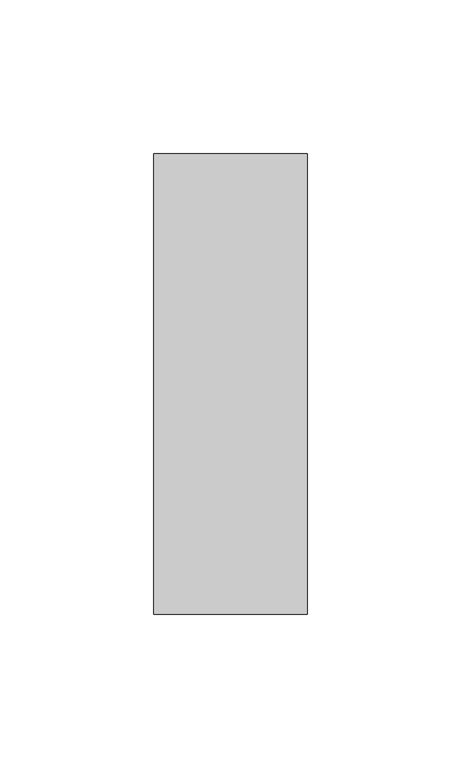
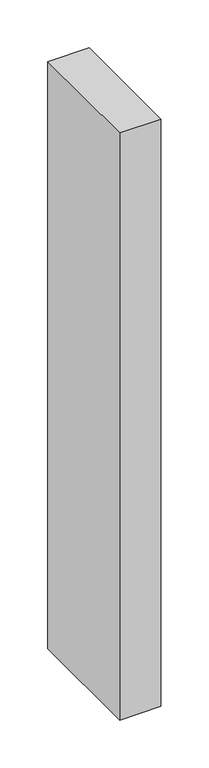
"""IFC4 building model written with IfcOpenShell, lengths in millimetres: member geometry, Прямоугольный импост : 50х150мм."""

import ifcopenshell
import ifcopenshell.guid

model = None  # the IFC model being written
_history = None  # IfcOwnerHistory: only IFC2X3 demands one
_inside = {}  # id of a spatial element -> (the spatial element, [elements in it])
_under = {}  # id of a project, library or spatial element -> (it, [spatial elements below it])
_declared = {}  # id of a project -> (the project, [libraries it declares])
_typed = {}  # id of a type object -> (the type object, [elements of that type])
_made_of = {}  # id of a material, layer set ... -> (it, [elements and type objects made of it])


def new_model(schema):
    """Start an empty IFC model of exactly this schema.

    Asked for "IFC4X3", IfcOpenShell would pick the latest addendum, in which some entities
    have other attributes; the version numbers below select the first issue.
    IFC2X3 requires an IfcOwnerHistory on every rooted entity: one is made here for all.
    """
    global model, _history
    if schema == "IFC4X3":
        model = ifcopenshell.file(schema_version=(4, 3, 0, 0))
    else:
        model = ifcopenshell.file(schema=schema)
    _inside.clear()
    _under.clear()
    _declared.clear()
    _typed.clear()
    _made_of.clear()
    _history = None
    if model.schema == "IFC2X3":
        org = make("IfcOrganization", Name="unknown")
        user = make(
            "IfcPersonAndOrganization",
            ThePerson=make("IfcPerson", FamilyName="unknown"),
            TheOrganization=org,
        )
        app = make(
            "IfcApplication",
            ApplicationDeveloper=org,
            Version="unknown",
            ApplicationFullName="unknown",
            ApplicationIdentifier="unknown",
        )
        _history = make(
            "IfcOwnerHistory",
            OwningUser=user,
            OwningApplication=app,
            ChangeAction="ADDED",
            CreationDate=0,
        )
    return model


def make(cls, **values):
    """One entity of the class cls with the attributes given. An attribute that is None is left unset."""
    return model.create_entity(
        cls, **{name: value for name, value in values.items() if value is not None}
    )


def rooted(cls, **values):
    """An entity with a GlobalId (a new one), such as an element, a storey or a relation."""
    return make(cls, GlobalId=ifcopenshell.guid.new(), OwnerHistory=_history, **values)


def si_unit(unit_type, name, prefix=None):
    """IfcSIUnit, for example si_unit("LENGTHUNIT", "METRE", prefix="MILLI")."""
    return make("IfcSIUnit", UnitType=unit_type, Prefix=prefix, Name=name)


def assignment(units):
    """IfcUnitAssignment: the units of a project."""
    return None if units is None else make("IfcUnitAssignment", Units=units)


def point(xyz):
    """IfcCartesianPoint."""
    return None if xyz is None else make("IfcCartesianPoint", Coordinates=xyz)


def direction(xyz):
    """IfcDirection."""
    return None if xyz is None else make("IfcDirection", DirectionRatios=xyz)


def frame(location, z_axis=None, x_axis=None):
    """IfcAxis2Placement3D, a coordinate frame: its origin and axes. An axis left out is left unset."""
    return make(
        "IfcAxis2Placement3D",
        Location=point(location),
        Axis=direction(z_axis),
        RefDirection=direction(x_axis),
    )


def origin():
    """The frame at (0, 0, 0) with its axes left unset."""
    return frame((0.0, 0.0, 0.0))


def place(relative_to, where):
    """IfcLocalPlacement: puts the frame where relative to a parent placement (None: the world)."""
    return make(
        "IfcLocalPlacement", PlacementRelTo=relative_to, RelativePlacement=where
    )


def context(
    kind, dimensions, precision=None, world=None, true_north=None, identifier=None
):
    """IfcGeometricRepresentationContext, for example the 3D "Model" context."""
    return make(
        "IfcGeometricRepresentationContext",
        ContextIdentifier=identifier,
        ContextType=kind,
        CoordinateSpaceDimension=dimensions,
        Precision=precision,
        WorldCoordinateSystem=world,
        TrueNorth=true_north,
    )


def project(units=None, contexts=None):
    """IfcProject with its units and contexts."""
    return rooted(
        "IfcProject",
        Name="project",
        RepresentationContexts=contexts,
        UnitsInContext=assignment(units),
    )


def spatial(cls, under=None, at=None, **own):
    """A site, building, storey or space (cls), placed at a placement, below another one or the project."""
    s = rooted(cls, ObjectPlacement=at, **own)
    if under is not None:
        _under.setdefault(under.id(), (under, []))[1].append(s)
    return s


def polyline(points):
    """IfcPolyline through the points."""
    return make("IfcPolyline", Points=[point(p) for p in points])


def outline(outer, holes=None, kind="AREA"):
    """IfcArbitraryClosedProfileDef: a profile drawn as a closed curve; with holes, ...WithVoids."""
    if holes is None:
        return make("IfcArbitraryClosedProfileDef", ProfileType=kind, OuterCurve=outer)
    return make(
        "IfcArbitraryProfileDefWithVoids",
        ProfileType=kind,
        OuterCurve=outer,
        InnerCurves=holes,
    )


def extrude(swept, where, along, depth):
    """IfcExtrudedAreaSolid: the profile swept, set in the frame where, extruded along a direction by depth."""
    return make(
        "IfcExtrudedAreaSolid",
        SweptArea=swept,
        Position=where,
        ExtrudedDirection=direction(along),
        Depth=depth,
    )


def shape(context_of_items, identifier, shape_type, items):
    """IfcShapeRepresentation: the items that make up one representation, for example the "Body"."""
    return make(
        "IfcShapeRepresentation",
        ContextOfItems=context_of_items,
        RepresentationIdentifier=identifier,
        RepresentationType=shape_type,
        Items=items,
    )


def source(mapping_origin, context_of_items, identifier, shape_type, items):
    """IfcRepresentationMap: a shape defined once, which mapped items show again and again."""
    return make(
        "IfcRepresentationMap",
        MappingOrigin=mapping_origin,
        MappedRepresentation=shape(context_of_items, identifier, shape_type, items),
    )


def transform(
    local_origin,
    x_axis=None,
    y_axis=None,
    z_axis=None,
    scale=None,
    scale2=None,
    scale3=None,
    uniform=True,
):
    """IfcCartesianTransformationOperator3D, or its non-uniform kind. x_axis, y_axis, z_axis: its Axis1, 2, 3."""
    if uniform:
        return make(
            "IfcCartesianTransformationOperator3D",
            Axis1=direction(x_axis),
            Axis2=direction(y_axis),
            LocalOrigin=point(local_origin),
            Scale=scale,
            Axis3=direction(z_axis),
        )
    return make(
        "IfcCartesianTransformationOperator3DnonUniform",
        Axis1=direction(x_axis),
        Axis2=direction(y_axis),
        LocalOrigin=point(local_origin),
        Scale=scale,
        Axis3=direction(z_axis),
        Scale2=scale2,
        Scale3=scale3,
    )


def mapped(mapping_source, mapping_target):
    """IfcMappedItem: shows the shape of a source again, moved by a transform."""
    return make(
        "IfcMappedItem", MappingSource=mapping_source, MappingTarget=mapping_target
    )


def made_of(thing, what):
    """Note that an element or type object is made of a material, layer set ...; save() writes the relation."""
    if what is not None:
        _made_of.setdefault(what.id(), (what, []))[1].append(thing)
    return thing


def element(
    cls,
    number,
    at=None,
    inside=None,
    cuts=None,
    type_object=None,
    material=None,
    context=None,
    identifier="Body",
    shape_type=None,
    held_by="IfcProductDefinitionShape",
    body=None,
    shapes=None,
    **own,
):
    """One element of the class cls, such as IfcWall. Its Tag is "e" and its number.

    at: its placement. inside: the storey or other place that contains it. cuts: it is an
    opening in that element (IfcRelVoidsElement). A single representation is given by context,
    identifier, shape_type and body (its items); several are given by shapes. held_by: the class
    of the entity that holds the representations. save() writes the other relations.
    """
    e = rooted(cls, Tag="e%d" % number, ObjectPlacement=at, **own)
    if body is not None:
        shapes = [shape(context, identifier, shape_type, body)]
    if shapes is not None:
        e.Representation = make(held_by, Representations=shapes)
    if inside is not None:
        _inside.setdefault(inside.id(), (inside, []))[1].append(e)
    if cuts is not None:
        rooted(
            "IfcRelVoidsElement", RelatingBuildingElement=cuts, RelatedOpeningElement=e
        )
    if type_object is not None:
        _typed.setdefault(type_object.id(), (type_object, []))[1].append(e)
    return made_of(e, material)


def aggregate(whole, parts):
    """IfcRelAggregates: a whole, such as a stair, and the parts it consists of."""
    return rooted("IfcRelAggregates", RelatingObject=whole, RelatedObjects=parts)


def save(model, path):
    """Write the relations noted so far, then the file.

    IfcRelAggregates (storeys below a building ...), IfcRelContainedInSpatialStructure (elements
    in a storey), IfcRelDefinesByType, IfcRelAssociatesMaterial and IfcRelDeclares: one each for
    every whole, place, type object, material and project.
    """
    for whole, parts in _under.values():
        aggregate(whole, parts)
    for where, things in _inside.values():
        rooted(
            "IfcRelContainedInSpatialStructure",
            RelatedElements=things,
            RelatingStructure=where,
        )
    for kind, things in _typed.values():
        rooted("IfcRelDefinesByType", RelatedObjects=things, RelatingType=kind)
    for what, things in _made_of.values():
        rooted("IfcRelAssociatesMaterial", RelatedObjects=things, RelatingMaterial=what)
    for by, libraries in _declared.values():
        rooted("IfcRelDeclares", RelatingContext=by, RelatedDefinitions=libraries)
    model.write(path)


def member_457f9466(model_context):
    return source(origin(), model_context, "Body", "SweptSolid", [
        extrude(outline(polyline([(25.0, 75.0), (25.0, -75.0), (-25.0, -75.0), (-25.0, 75.0), (25.0, 75.0)])), frame((0.0, 0.0, -750.0), z_axis=(0.0, 0.0, 1.0), x_axis=(1.0, 0.0, 0.0)), (0.0, 0.0, 1.0), 750.0),
    ])


if __name__ == "__main__":
    model = new_model("IFC4")
    model_context = context("Model", 3, world=origin())
    ifc_project = project(units=[si_unit("LENGTHUNIT", "METRE", prefix="MILLI")], contexts=[model_context])
    site = spatial("IfcSite", under=ifc_project)
    building = spatial("IfcBuilding", under=site)
    placement = place(None, origin())
    member_shape = member_457f9466(model_context)
    element("IfcMember", 1, ObjectType="Прямоугольный импост : 50х150мм", at=placement, inside=building, context=model_context, shape_type="MappedRepresentation", body=[
        mapped(member_shape, transform((0.0, 0.0, 0.0), x_axis=(1.0, 0.0, 0.0), y_axis=(0.0, 1.0, 0.0), z_axis=(0.0, 0.0, 1.0))),
    ])
    save(model, "model.ifc")
